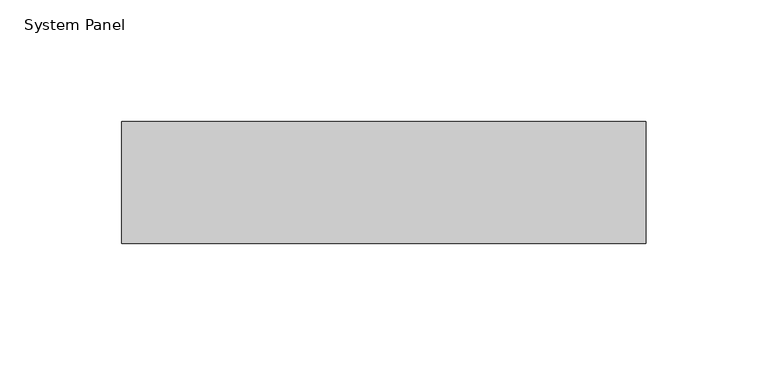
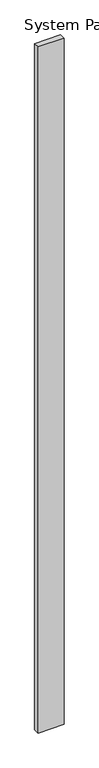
"""IFC4 building model written with IfcOpenShell, lengths in millimetres: plate geometry, System Panel : Trimo - Qbiss Screen - Placeholder Panel."""

from ifc_helpers import new_model, si_unit, origin, origin_with_axes, place, context, project, spatial, polyline, outline, extrude, source, transform, mapped, element, save


def system_panel_128491da(model_context):
    return source(origin(), model_context, "Body", "SweptSolid", [
        extrude(outline(polyline([(107.5, -100.0), (-107.5, -100.0), (-107.5, -50.0), (107.5, -50.0), (107.5, -100.0)])), origin_with_axes(), (0.0, 0.0, 1.0), 6000.0),
    ])


if __name__ == "__main__":
    model = new_model("IFC4")
    model_context = context("Model", 3, world=origin())
    ifc_project = project(units=[si_unit("LENGTHUNIT", "METRE", prefix="MILLI")], contexts=[model_context])
    site = spatial("IfcSite", under=ifc_project)
    building = spatial("IfcBuilding", under=site)
    placement = place(None, origin())
    system_panel_shape = system_panel_128491da(model_context)
    element("IfcPlate", 1, ObjectType="System Panel : Trimo - Qbiss Screen - Placeholder Panel", at=placement, inside=building, context=model_context, shape_type="MappedRepresentation", body=[
        mapped(system_panel_shape, transform((0.0, 0.0, 0.0), x_axis=(1.0, 0.0, 0.0), y_axis=(0.0, 1.0, 0.0), z_axis=(0.0, 0.0, 1.0))),
    ])
    save(model, "model.ifc")
